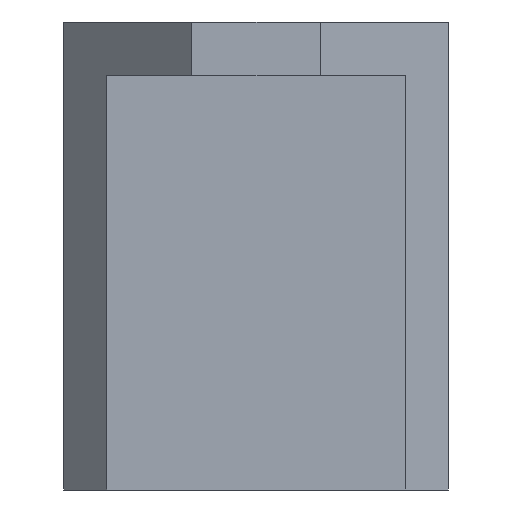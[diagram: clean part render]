
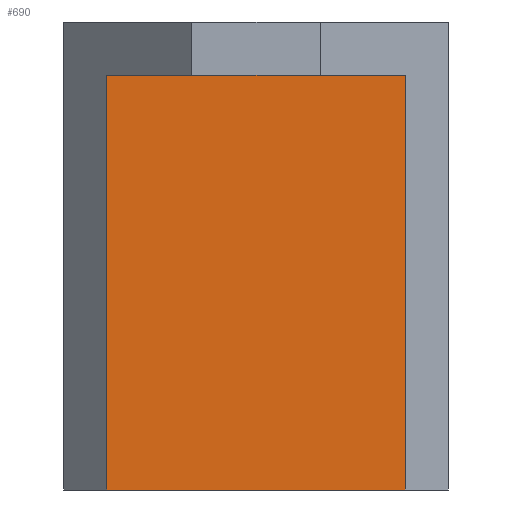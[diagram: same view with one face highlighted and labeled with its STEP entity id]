
A CAD part, left-side view. The second image highlights one B-rep face of the part: STEP entity #690.
In plain terms, the highlighted planar face has unit normal (-1, 0, 0).
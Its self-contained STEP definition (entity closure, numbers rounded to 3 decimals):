
#282=CARTESIAN_POINT('Vertex',(-15.5,-7.,23.223)) ;
#296=CARTESIAN_POINT('Vertex',(-15.5,7.,23.223)) ;
#299=CARTESIAN_POINT('Line Origine',(-15.5,0.,23.223)) ;
#341=CARTESIAN_POINT('Line Origine',(-15.5,-7.,14.762)) ;
#345=CARTESIAN_POINT('Vertex',(-15.5,-7.,3.8)) ;
#397=CARTESIAN_POINT('Vertex',(-15.5,7.,3.8)) ;
#400=CARTESIAN_POINT('Line Origine',(-15.5,7.,14.762)) ;
#674=CARTESIAN_POINT('Axis2P3D Location',(-15.5,9.,0.)) ;
#679=CARTESIAN_POINT('Line Origine',(-15.5,0.,3.8)) ;
#301=VECTOR('Line Direction',#300,1.) ;
#343=VECTOR('Line Direction',#342,1.) ;
#402=VECTOR('Line Direction',#401,1.) ;
#681=VECTOR('Line Direction',#680,1.) ;
#300=DIRECTION('Vector Direction',(0.,1.,0.)) ;
#342=DIRECTION('Vector Direction',(0.,0.,-1.)) ;
#401=DIRECTION('Vector Direction',(0.,0.,-1.)) ;
#675=DIRECTION('Axis2P3D Direction',(-1.,0.,0.)) ;
#676=DIRECTION('Axis2P3D XDirection',(-0.,-1.,0.)) ;
#680=DIRECTION('Vector Direction',(0.,1.,0.)) ;
#677=AXIS2_PLACEMENT_3D('Plane Axis2P3D',#674,#675,#676) ;
#302=LINE('Line',#299,#301) ;
#344=LINE('Line',#341,#343) ;
#403=LINE('Line',#400,#402) ;
#682=LINE('Line',#679,#681) ;
#678=PLANE('',#677) ;
#303=EDGE_CURVE('',#283,#297,#302,.T.) ;
#347=EDGE_CURVE('',#283,#346,#344,.T.) ;
#404=EDGE_CURVE('',#398,#297,#403,.F.) ;
#683=EDGE_CURVE('',#346,#398,#682,.T.) ;
#685=ORIENTED_EDGE('',*,*,#303,.T.) ;
#686=ORIENTED_EDGE('',*,*,#404,.F.) ;
#687=ORIENTED_EDGE('',*,*,#683,.F.) ;
#688=ORIENTED_EDGE('',*,*,#347,.F.) ;
#684=EDGE_LOOP('',(#685,#686,#687,#688)) ;
#283=VERTEX_POINT('',#282) ;
#297=VERTEX_POINT('',#296) ;
#346=VERTEX_POINT('',#345) ;
#398=VERTEX_POINT('',#397) ;
#690=ADVANCED_FACE('\X2\FF8AFF9FFF70FF82\X0\ \X2\FF8EFF9EFF83FF9EFF68FF70\X0\',(#689),#678,.T.) ;
#689=FACE_OUTER_BOUND('',#684,.T.) ;
